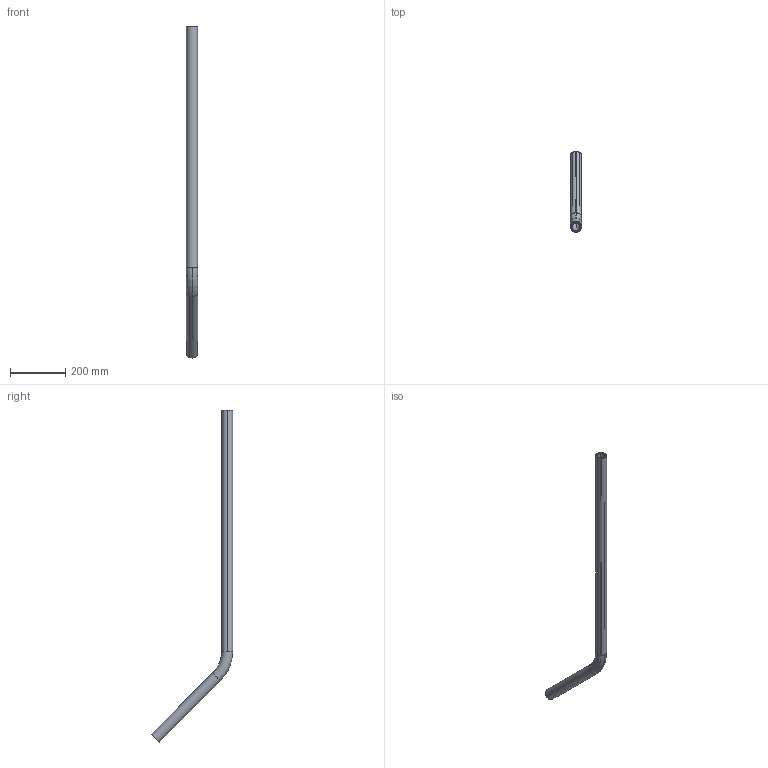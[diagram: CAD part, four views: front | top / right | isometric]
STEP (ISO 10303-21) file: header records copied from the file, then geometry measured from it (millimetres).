
FILE_DESCRIPTION (( 'STEP AP214' ), '1' );
FILE_NAME ('KP_4-40-32SCECL.STEP', '2023-10-10T10:26:52', ( '' ), ( '' ), 'SwSTEP 2.0', 'SolidWorks 2022', '' );
FILE_SCHEMA (( 'AUTOMOTIVE_DESIGN' ));
Length unit declared in the file: millimetre
Products named in the file (3): KP_4-40-32SCECL; KP000711; KP000712
Assembly tree (2 placements, depth 2):
  KP_4-40-32SCECL
    KP000711
    KP000712
Bounding box: 40 x 294.14 x 1200 mm (x, y, z)
Volume: 638098.7 mm3; surface area: 558404.8 mm2
Topology: 2 solids, 2 shells, 80 faces, 186 edges, 111 vertices
Faces by surface type: cylinder 50, torus 25, plane 5
Entity records: 3213 total; most frequent: DIRECTION 492, CARTESIAN_POINT 382, ORIENTED_EDGE 372, AXIS2_PLACEMENT_3D 221, EDGE_CURVE 186, CIRCLE 136, VERTEX_POINT 111, EDGE_LOOP 85
